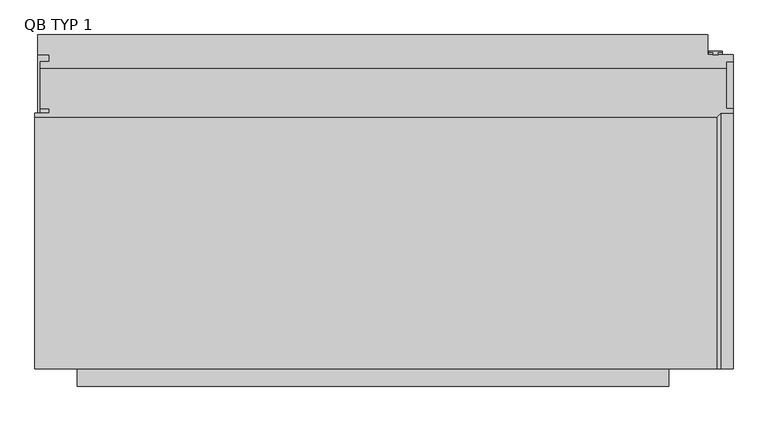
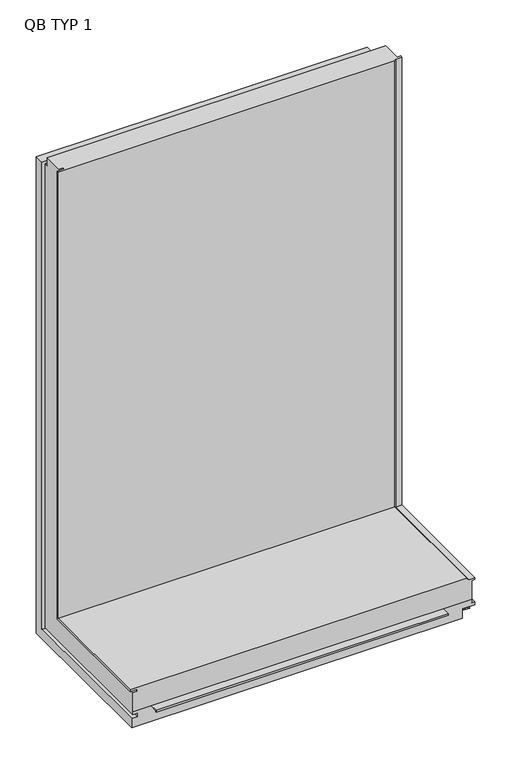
"""IFC4 building model written with IfcOpenShell, lengths in millimetres: plate geometry, TR_C_V_QBISS_Corner_Tr : QB TYP 1."""

import ifcopenshell
import ifcopenshell.guid

model = None  # the IFC model being written
_history = None  # IfcOwnerHistory: only IFC2X3 demands one
_inside = {}  # id of a spatial element -> (the spatial element, [elements in it])
_under = {}  # id of a project, library or spatial element -> (it, [spatial elements below it])
_declared = {}  # id of a project -> (the project, [libraries it declares])
_typed = {}  # id of a type object -> (the type object, [elements of that type])
_made_of = {}  # id of a material, layer set ... -> (it, [elements and type objects made of it])


def new_model(schema):
    """Start an empty IFC model of exactly this schema.

    Asked for "IFC4X3", IfcOpenShell would pick the latest addendum, in which some entities
    have other attributes; the version numbers below select the first issue.
    IFC2X3 requires an IfcOwnerHistory on every rooted entity: one is made here for all.
    """
    global model, _history
    if schema == "IFC4X3":
        model = ifcopenshell.file(schema_version=(4, 3, 0, 0))
    else:
        model = ifcopenshell.file(schema=schema)
    _inside.clear()
    _under.clear()
    _declared.clear()
    _typed.clear()
    _made_of.clear()
    _history = None
    if model.schema == "IFC2X3":
        org = make("IfcOrganization", Name="unknown")
        user = make(
            "IfcPersonAndOrganization",
            ThePerson=make("IfcPerson", FamilyName="unknown"),
            TheOrganization=org,
        )
        app = make(
            "IfcApplication",
            ApplicationDeveloper=org,
            Version="unknown",
            ApplicationFullName="unknown",
            ApplicationIdentifier="unknown",
        )
        _history = make(
            "IfcOwnerHistory",
            OwningUser=user,
            OwningApplication=app,
            ChangeAction="ADDED",
            CreationDate=0,
        )
    return model


def make(cls, **values):
    """One entity of the class cls with the attributes given. An attribute that is None is left unset."""
    return model.create_entity(
        cls, **{name: value for name, value in values.items() if value is not None}
    )


def rooted(cls, **values):
    """An entity with a GlobalId (a new one), such as an element, a storey or a relation."""
    return make(cls, GlobalId=ifcopenshell.guid.new(), OwnerHistory=_history, **values)


def si_unit(unit_type, name, prefix=None):
    """IfcSIUnit, for example si_unit("LENGTHUNIT", "METRE", prefix="MILLI")."""
    return make("IfcSIUnit", UnitType=unit_type, Prefix=prefix, Name=name)


def assignment(units):
    """IfcUnitAssignment: the units of a project."""
    return None if units is None else make("IfcUnitAssignment", Units=units)


def point(xyz):
    """IfcCartesianPoint."""
    return None if xyz is None else make("IfcCartesianPoint", Coordinates=xyz)


def direction(xyz):
    """IfcDirection."""
    return None if xyz is None else make("IfcDirection", DirectionRatios=xyz)


def frame(location, z_axis=None, x_axis=None):
    """IfcAxis2Placement3D, a coordinate frame: its origin and axes. An axis left out is left unset."""
    return make(
        "IfcAxis2Placement3D",
        Location=point(location),
        Axis=direction(z_axis),
        RefDirection=direction(x_axis),
    )


def origin():
    """The frame at (0, 0, 0) with its axes left unset."""
    return frame((0.0, 0.0, 0.0))


def place(relative_to, where):
    """IfcLocalPlacement: puts the frame where relative to a parent placement (None: the world)."""
    return make(
        "IfcLocalPlacement", PlacementRelTo=relative_to, RelativePlacement=where
    )


def context(
    kind, dimensions, precision=None, world=None, true_north=None, identifier=None
):
    """IfcGeometricRepresentationContext, for example the 3D "Model" context."""
    return make(
        "IfcGeometricRepresentationContext",
        ContextIdentifier=identifier,
        ContextType=kind,
        CoordinateSpaceDimension=dimensions,
        Precision=precision,
        WorldCoordinateSystem=world,
        TrueNorth=true_north,
    )


def project(units=None, contexts=None):
    """IfcProject with its units and contexts."""
    return rooted(
        "IfcProject",
        Name="project",
        RepresentationContexts=contexts,
        UnitsInContext=assignment(units),
    )


def spatial(cls, under=None, at=None, **own):
    """A site, building, storey or space (cls), placed at a placement, below another one or the project."""
    s = rooted(cls, ObjectPlacement=at, **own)
    if under is not None:
        _under.setdefault(under.id(), (under, []))[1].append(s)
    return s


def polyline(points):
    """IfcPolyline through the points."""
    return make("IfcPolyline", Points=[point(p) for p in points])


def outline(outer, holes=None, kind="AREA"):
    """IfcArbitraryClosedProfileDef: a profile drawn as a closed curve; with holes, ...WithVoids."""
    if holes is None:
        return make("IfcArbitraryClosedProfileDef", ProfileType=kind, OuterCurve=outer)
    return make(
        "IfcArbitraryProfileDefWithVoids",
        ProfileType=kind,
        OuterCurve=outer,
        InnerCurves=holes,
    )


def extrude(swept, where, along, depth):
    """IfcExtrudedAreaSolid: the profile swept, set in the frame where, extruded along a direction by depth."""
    return make(
        "IfcExtrudedAreaSolid",
        SweptArea=swept,
        Position=where,
        ExtrudedDirection=direction(along),
        Depth=depth,
    )


def faces_of(points, faces, orient=None, outer=None):
    """IfcFace entities. A face is a list of loops; a loop is a list of indices into points, from 0.

    orient and outer hold one flag for each loop. By default every Orientation is true, the
    first loop of a face is its IfcFaceOuterBound and the others are IfcFaceBound.
    """
    made = []
    for i, loops in enumerate(faces):
        bounds = []
        for j, loop in enumerate(loops):
            is_outer = j == 0 if outer is None else outer[i][j]
            bounds.append(
                make(
                    "IfcFaceOuterBound" if is_outer else "IfcFaceBound",
                    Bound=make("IfcPolyLoop", Polygon=[points[k] for k in loop]),
                    Orientation=True if orient is None else orient[i][j],
                )
            )
        made.append(make("IfcFace", Bounds=bounds))
    return made


def faceted_brep(points, faces, orient=None, outer=None, voids=None):
    """IfcFacetedBrep: a solid bounded by flat faces; with voids (closed shells), ...WithVoids."""
    shared = [point(p) for p in points]
    hull = make("IfcClosedShell", CfsFaces=faces_of(shared, faces, orient, outer))
    if voids is None:
        return make("IfcFacetedBrep", Outer=hull)
    return make(
        "IfcFacetedBrepWithVoids",
        Outer=hull,
        Voids=[
            make(cls, CfsFaces=faces_of(shared, fs, o, b)) for cls, fs, o, b in voids
        ],
    )


def shape(context_of_items, identifier, shape_type, items):
    """IfcShapeRepresentation: the items that make up one representation, for example the "Body"."""
    return make(
        "IfcShapeRepresentation",
        ContextOfItems=context_of_items,
        RepresentationIdentifier=identifier,
        RepresentationType=shape_type,
        Items=items,
    )


def source(mapping_origin, context_of_items, identifier, shape_type, items):
    """IfcRepresentationMap: a shape defined once, which mapped items show again and again."""
    return make(
        "IfcRepresentationMap",
        MappingOrigin=mapping_origin,
        MappedRepresentation=shape(context_of_items, identifier, shape_type, items),
    )


def transform(
    local_origin,
    x_axis=None,
    y_axis=None,
    z_axis=None,
    scale=None,
    scale2=None,
    scale3=None,
    uniform=True,
):
    """IfcCartesianTransformationOperator3D, or its non-uniform kind. x_axis, y_axis, z_axis: its Axis1, 2, 3."""
    if uniform:
        return make(
            "IfcCartesianTransformationOperator3D",
            Axis1=direction(x_axis),
            Axis2=direction(y_axis),
            LocalOrigin=point(local_origin),
            Scale=scale,
            Axis3=direction(z_axis),
        )
    return make(
        "IfcCartesianTransformationOperator3DnonUniform",
        Axis1=direction(x_axis),
        Axis2=direction(y_axis),
        LocalOrigin=point(local_origin),
        Scale=scale,
        Axis3=direction(z_axis),
        Scale2=scale2,
        Scale3=scale3,
    )


def mapped(mapping_source, mapping_target):
    """IfcMappedItem: shows the shape of a source again, moved by a transform."""
    return make(
        "IfcMappedItem", MappingSource=mapping_source, MappingTarget=mapping_target
    )


def made_of(thing, what):
    """Note that an element or type object is made of a material, layer set ...; save() writes the relation."""
    if what is not None:
        _made_of.setdefault(what.id(), (what, []))[1].append(thing)
    return thing


def element(
    cls,
    number,
    at=None,
    inside=None,
    cuts=None,
    type_object=None,
    material=None,
    context=None,
    identifier="Body",
    shape_type=None,
    held_by="IfcProductDefinitionShape",
    body=None,
    shapes=None,
    **own,
):
    """One element of the class cls, such as IfcWall. Its Tag is "e" and its number.

    at: its placement. inside: the storey or other place that contains it. cuts: it is an
    opening in that element (IfcRelVoidsElement). A single representation is given by context,
    identifier, shape_type and body (its items); several are given by shapes. held_by: the class
    of the entity that holds the representations. save() writes the other relations.
    """
    e = rooted(cls, Tag="e%d" % number, ObjectPlacement=at, **own)
    if body is not None:
        shapes = [shape(context, identifier, shape_type, body)]
    if shapes is not None:
        e.Representation = make(held_by, Representations=shapes)
    if inside is not None:
        _inside.setdefault(inside.id(), (inside, []))[1].append(e)
    if cuts is not None:
        rooted(
            "IfcRelVoidsElement", RelatingBuildingElement=cuts, RelatedOpeningElement=e
        )
    if type_object is not None:
        _typed.setdefault(type_object.id(), (type_object, []))[1].append(e)
    return made_of(e, material)


def aggregate(whole, parts):
    """IfcRelAggregates: a whole, such as a stair, and the parts it consists of."""
    return rooted("IfcRelAggregates", RelatingObject=whole, RelatedObjects=parts)


def save(model, path):
    """Write the relations noted so far, then the file.

    IfcRelAggregates (storeys below a building ...), IfcRelContainedInSpatialStructure (elements
    in a storey), IfcRelDefinesByType, IfcRelAssociatesMaterial and IfcRelDeclares: one each for
    every whole, place, type object, material and project.
    """
    for whole, parts in _under.values():
        aggregate(whole, parts)
    for where, things in _inside.values():
        rooted(
            "IfcRelContainedInSpatialStructure",
            RelatedElements=things,
            RelatingStructure=where,
        )
    for kind, things in _typed.values():
        rooted("IfcRelDefinesByType", RelatedObjects=things, RelatingType=kind)
    for what, things in _made_of.values():
        rooted("IfcRelAssociatesMaterial", RelatedObjects=things, RelatingMaterial=what)
    for by, libraries in _declared.values():
        rooted("IfcRelDeclares", RelatingContext=by, RelatedDefinitions=libraries)
    model.write(path)


def qb_typ_1_3849cef3(model_context):
    return source(origin(), model_context, "Body", "SolidModel", [
        faceted_brep([(494.5, -24.0, 1487.3), (474.5, -24.0, 1487.3), (474.5, -25.4998317, 1487.3), (481.3023028, -25.4998317, 1487.3), (481.3023028, -27.9998293, 1487.3), (480.5023028, -27.9998293, 1487.3), (480.5023028, -28.7998428, 1487.3), (488.5023593, -28.7998428, 1487.3), (488.5023593, -27.9998293, 1487.3), (487.7023593, -27.9998293, 1487.3), (487.7023593, -25.4998317, 1487.3), (494.5, -25.4998317, 1487.3), (494.5, -25.4998317, 25.4998317), (494.5, -487.3, 25.4998317), (494.5, -487.3, 24.0), (494.5, -24.0, 24.0), (487.7023593, -25.4998317, 25.4998317), (487.7023593, -27.9998293, 27.9998293), (487.7023593, -487.3, 27.9998293), (487.7023593, -487.3, 25.4998317), (488.5023593, -27.9998293, 27.9998293), (488.5023593, -28.7998428, 28.7998428), (488.5023593, -487.3, 28.7998428), (488.5023593, -487.3, 27.9998293), (480.5023028, -28.7998428, 28.7998428), (480.5023028, -27.9998293, 27.9998293), (480.5023028, -487.3, 27.9998293), (480.5023028, -487.3, 28.7998428), (481.3023028, -27.9998293, 27.9998293), (481.3023028, -25.4998317, 25.4998317), (481.3023028, -487.3, 25.4998317), (481.3023028, -487.3, 27.9998293), (474.5, -25.4998317, 25.4998317), (474.5, -24.0, 24.0), (474.5, -487.3, 24.0), (474.5, -487.3, 25.4998317)], [[[0, 1, 2, 3, 4, 5, 6, 7, 8, 9, 10, 11]], [[0, 11, 12, 13, 14, 15]], [[11, 10, 16, 12]], [[10, 9, 17, 18, 19, 16]], [[9, 8, 20, 17]], [[8, 7, 21, 22, 23, 20]], [[7, 6, 24, 21]], [[6, 5, 25, 26, 27, 24]], [[5, 4, 28, 25]], [[4, 3, 29, 30, 31, 28]], [[3, 2, 32, 29]], [[2, 1, 33, 34, 35, 32]], [[1, 0, 15, 33]], [[14, 13, 19, 18, 23, 22, 27, 26, 31, 30, 35, 34]], [[12, 16, 19, 13]], [[17, 20, 23, 18]], [[21, 24, 27, 22]], [[25, 28, 31, 26]], [[29, 32, 35, 30]], [[33, 15, 14, 34]]]),
        extrude(outline(polyline([(-512.5, 49.0), (-487.3, 49.0), (-487.3, 48.2), (-511.7, 48.2), (-511.7, 44.0), (-512.5, 44.0), (-512.5, 49.0)])), frame((-446.0, 0.0, 0.0), z_axis=(1.0, 0.0, 0.0), x_axis=(0.0, 1.0, 0.0)), (0.0, 0.0, 1.0), 862.0),
        faceted_brep([(500.0, -49.0, 1487.3), (-500.0, -49.0, 1487.3), (-500.0, -49.0, 1512.4), (500.0, -49.0, 1512.4), (500.0, -39.0, 1487.3), (510.0, -39.0, 1487.3), (510.0, -29.0, 1487.3), (473.0, -29.0, 1487.3), (473.0, 0.0, 1487.3), (-504.0, 0.0, 1487.3), (-504.0, -29.0, 1487.3), (-487.0, -29.0, 1487.3), (-487.0, -39.0, 1487.3), (-500.0, -39.0, 1487.3), (-500.0, -108.0, 1512.4), (-487.0, -108.0, 1512.4), (-487.0, -114.0, 1512.4), (-508.0, -114.0, 1512.4), (-508.0, -120.0, 1512.4), (486.0, -120.0, 1512.4), (492.0, -114.0, 1512.4), (510.0, -114.0, 1512.4), (510.0, -108.0, 1512.4), (500.0, -108.0, 1512.4), (510.0, -39.0, 39.0), (510.0, -487.3, 39.0), (510.0, -487.3, 29.0), (510.0, -29.0, 29.0), (473.0, -29.0, 29.0), (473.0, -487.3, 29.0), (473.0, -487.3, 0.0), (473.0, 0.0, 0.0), (-504.0, 0.0, 0.0), (-504.0, -487.3, 0.0), (-504.0, -487.3, 29.0), (-504.0, -29.0, 29.0), (-487.0, -29.0, 29.0), (-487.0, -487.3, 29.0), (-487.0, -487.3, 39.0), (-487.0, -39.0, 39.0), (-500.0, -39.0, 39.0), (-500.0, -487.5, 108.0), (-500.0, -108.0, 108.0), (-500.0, -487.3, 39.0), (-500.0, -487.3, 49.0), (-500.0, -487.5, 49.0), (-487.0, -108.0, 108.0), (-487.0, -487.5, 108.0), (-487.0, -487.5, 114.0), (-487.0, -114.0, 114.0), (-508.0, -114.0, 114.0), (-508.0, -487.5, 114.0), (-508.0, -487.5, 120.0), (-508.0, -120.0, 120.0), (486.0, -120.0, 120.0), (492.0, -114.0, 114.0), (510.0, -114.0, 114.0), (510.0, -487.5, 114.0), (510.0, -487.5, 108.0), (510.0, -108.0, 108.0), (500.0, -108.0, 108.0), (500.0, -487.5, 108.0), (500.0, -487.5, 49.0), (500.0, -487.3, 49.0), (500.0, -487.3, 39.0), (500.0, -39.0, 39.0), (492.0, -487.5, 114.0), (486.0, -487.5, 120.0)], [[[0, 1, 2, 3]], [[1, 0, 4, 5, 6, 7, 8, 9, 10, 11, 12, 13]], [[14, 15, 16, 17, 18, 19, 20, 21, 22, 23, 3, 2]], [[5, 24, 25, 26, 27, 6]], [[27, 28, 7, 6]], [[7, 28, 29, 30, 31, 8]], [[31, 32, 9, 8]], [[9, 32, 33, 34, 35, 10]], [[35, 36, 11, 10]], [[11, 36, 37, 38, 39, 12]], [[39, 40, 13, 12]], [[41, 42, 14, 2, 1, 13, 40, 43, 44, 45]], [[15, 14, 42, 46]], [[16, 15, 46, 47, 48, 49]], [[17, 16, 49, 50]], [[18, 17, 50, 51, 52, 53]], [[19, 18, 53, 54]], [[20, 19, 54, 55]], [[21, 20, 55, 56]], [[22, 21, 56, 57, 58, 59]], [[23, 22, 59, 60]], [[23, 60, 61, 62, 63, 64, 65, 4, 0, 3]], [[65, 24, 5, 4]], [[48, 47, 41, 45, 62, 61, 58, 57, 66, 67, 52, 51]], [[28, 27, 26, 29]], [[32, 31, 30, 33]], [[36, 35, 34, 37]], [[40, 39, 38, 43]], [[42, 41, 47, 46]], [[49, 48, 51, 50]], [[53, 52, 67, 54]], [[55, 54, 67, 66]], [[56, 55, 66, 57]], [[59, 58, 61, 60]], [[24, 65, 64, 25]], [[63, 44, 43, 38, 37, 34, 33, 30, 29, 26, 25, 64]], [[44, 63, 62, 45]]]),
    ])


if __name__ == "__main__":
    model = new_model("IFC4")
    model_context = context("Model", 3, world=origin())
    ifc_project = project(units=[si_unit("LENGTHUNIT", "METRE", prefix="MILLI")], contexts=[model_context])
    site = spatial("IfcSite", under=ifc_project)
    building = spatial("IfcBuilding", under=site)
    placement = place(None, origin())
    qb_typ_1_shape = qb_typ_1_3849cef3(model_context)
    element("IfcPlate", 1, ObjectType="TR_C_V_QBISS_Corner_Tr : QB TYP 1", at=placement, inside=building, context=model_context, shape_type="MappedRepresentation", body=[
        mapped(qb_typ_1_shape, transform((0.0, 0.0, 0.0), x_axis=(1.0, 0.0, 0.0), y_axis=(0.0, 1.0, 0.0), z_axis=(0.0, 0.0, 1.0))),
    ])
    save(model, "model.ifc")
